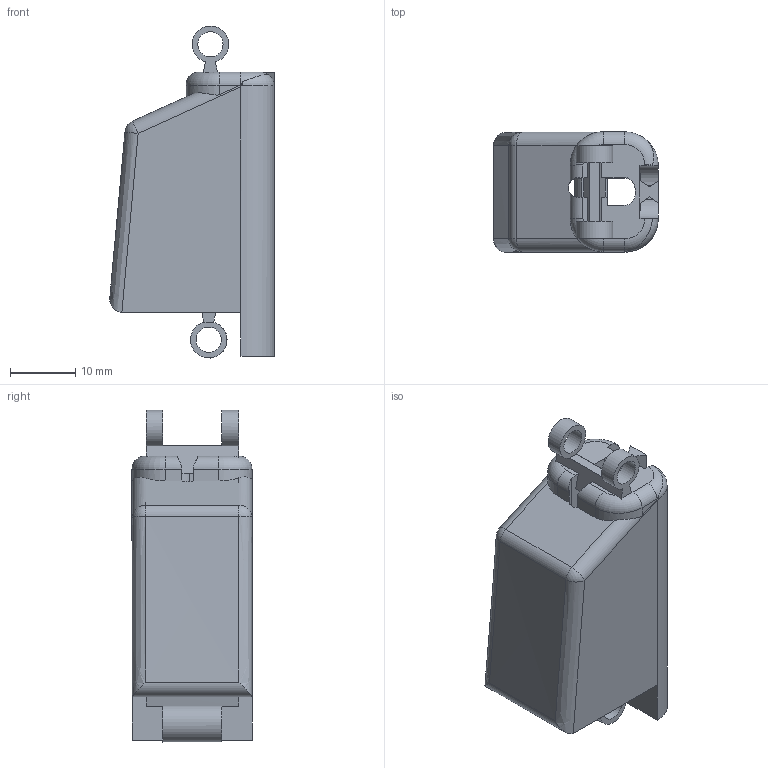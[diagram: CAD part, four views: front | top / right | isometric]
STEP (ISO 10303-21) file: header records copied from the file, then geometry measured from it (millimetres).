
FILE_DESCRIPTION(/* description */ ('STEP AP242 Edition 2','CAx-IF Rec.Pracs.---Representation and Presentation of Product Manufacturing Information (PMI)---4.0---2014-10-13','CAx-IF Rec.Pracs.---3D Tessellated Geometry---0.4---2014-09-14','2;1','CAx-IF Rec.Pracs.---User Defined Attributes---1.5---2016-08-15'),/* implementation_level */ '2;1');
FILE_NAME(/* name */ 'Assembly 1 - Mid Mih',/* time_stamp */ '2026-06-19T18:21:06Z',/* author */ (''),/* organization */ (''),/* preprocessor_version */ 'ST-DEVELOPER v20',/* originating_system */ 'ONSHAPE BY PTC INC, 1.216',/* authorisation */ ' ');
FILE_SCHEMA (('AP242_MANAGED_MODEL_BASED_3D_ENGINEERING_MIM_LF { 1 0 10303 442 3 1 4 }'));
Length unit declared in the file: metre
Products named in the file (1): Mid Mih
Bounding box: 25.25 x 18.43 x 50.96 mm (x, y, z)
Volume: 13818.2 mm3; surface area: 5450.7 mm2
Topology: 1 solids, 1 shells, 109 faces, 310 edges, 198 vertices
Faces by surface type: plane 64, cylinder 30, torus 6, cone 4, bspline 3, sphere 2
Full cylindrical faces by diameter (mm): 3.865 x3
Entity records: 3612 total; most frequent: CARTESIAN_POINT 749, ORIENTED_EDGE 610, DIRECTION 575, EDGE_CURVE 305, VERTEX_POINT 198, LINE 197, VECTOR 197, AXIS2_PLACEMENT_3D 189
